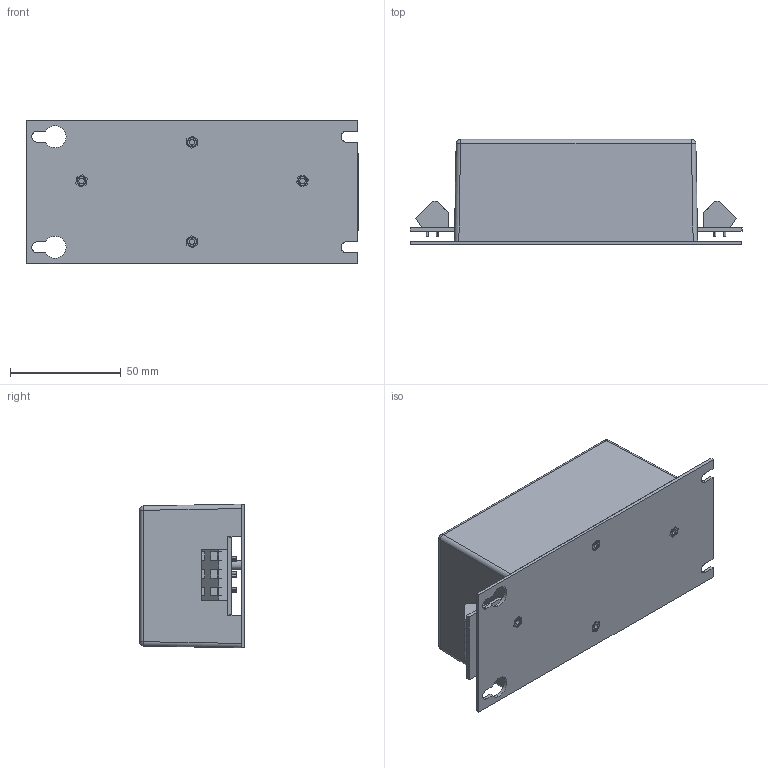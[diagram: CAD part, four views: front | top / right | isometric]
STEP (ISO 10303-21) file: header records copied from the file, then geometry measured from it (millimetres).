
FILE_DESCRIPTION (( 'STEP AP214' ), '1' );
FILE_NAME ('MDF16.STEP', '2015-01-22T10:08:39', ( '' ), ( '' ), 'SwSTEP 2.0', 'SolidWorks 2014', '' );
FILE_SCHEMA (( 'AUTOMOTIVE_DESIGN' ));
Length unit declared in the file: millimetre
Products named in the file (8): pcb19 ass; TER91; PCB19; MNT04 ASS; PEM SO-M3-6 ZI--N_PEM SO-M3-6 ZI--N; MNT04; BOX80; MDF16
Assembly tree (11 placements, depth 3):
  MDF16
    BOX80
    MNT04 ASS
      MNT04
      PEM SO-M3-6 ZI--N_PEM SO-M3-6 ZI--N  x4
    pcb19 ass
      PCB19
      TER91  x2
Bounding box: 150.2 x 47.5 x 65 mm (x, y, z)
Volume: 73144.2 mm3; surface area: 83125.9 mm2
Topology: 9 solids, 9 shells, 910 faces, 2363 edges, 1558 vertices
Faces by surface type: plane 573, cylinder 192, bspline 133, cone 8, sphere 4
Entity records: 32733 total; most frequent: CARTESIAN_POINT 13415, ORIENTED_EDGE 4070, DIRECTION 3363, EDGE_CURVE 2035, LINE 1467, VECTOR 1467, VERTEX_POINT 1348, EDGE_LOOP 953
